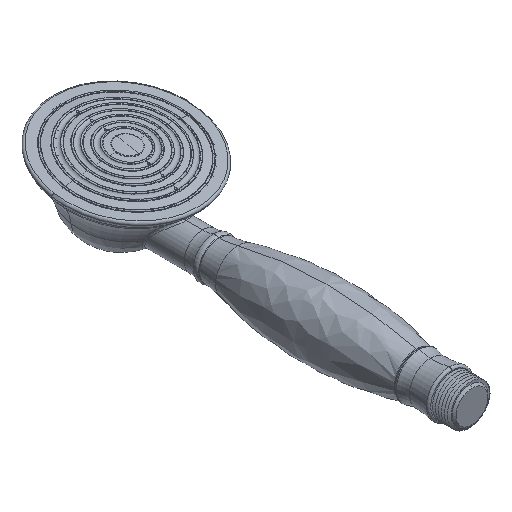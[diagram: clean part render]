
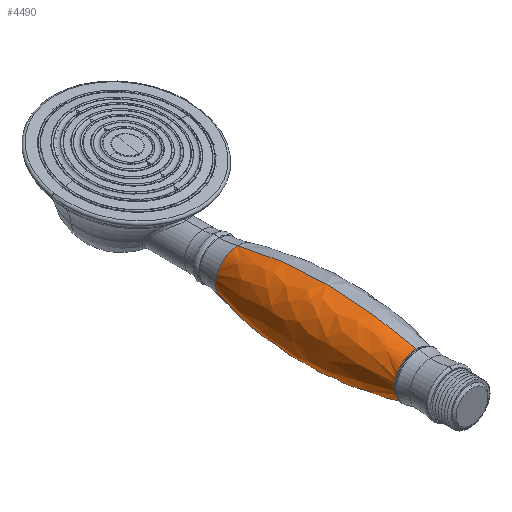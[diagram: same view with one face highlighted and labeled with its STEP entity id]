
A CAD part, isometric view. The second image highlights one B-rep face of the part: STEP entity #4490.
In plain terms, the highlighted free-form (B-spline) face has degree [3, 3] with [7, 4] control points.
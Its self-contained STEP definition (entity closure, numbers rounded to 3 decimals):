
#4356=CARTESIAN_POINT('',(0.,58.932,163.3));
#4357=DIRECTION('',(1.,0.,0.));
#4358=DIRECTION('',(0.,-0.251,-0.968));
#4359=AXIS2_PLACEMENT_3D('',#4356,#4357,#4358);
#4361=CARTESIAN_POINT('',(0.,58.932,-163.3));
#4362=DIRECTION('',(1.,0.,0.));
#4363=DIRECTION('',(0.,0.246,0.969));
#4364=AXIS2_PLACEMENT_3D('',#4361,#4362,#4363);
#4366=CARTESIAN_POINT('',(0.,13.8,0.));
#4367=DIRECTION('',(0.,-1.,0.));
#4368=DIRECTION('',(0.,0.,1.));
#4369=AXIS2_PLACEMENT_3D('',#4366,#4367,#4368);
#4376=CARTESIAN_POINT('',(0.,103.257,0.));
#4377=DIRECTION('',(0.,-1.,0.));
#4378=DIRECTION('',(0.,0.,1.));
#4379=AXIS2_PLACEMENT_3D('',#4376,#4377,#4378);
#4401=CARTESIAN_POINT('',(0.,13.8,10.95));
#4402=CARTESIAN_POINT('',(0.,13.8,-10.95));
#4403=VERTEX_POINT('',#4401);
#4404=VERTEX_POINT('',#4402);
#4405=CARTESIAN_POINT('',(0.,103.257,
-11.157));
#4406=VERTEX_POINT('',#4405);
#4407=CARTESIAN_POINT('',(0.,103.257,11.157));
#4408=VERTEX_POINT('',#4407);
#4453=CARTESIAN_POINT('',(0.672,105.007,10.682));
#4454=CARTESIAN_POINT('',(1.182,74.361,18.781));
#4455=CARTESIAN_POINT('',(1.177,42.66,18.708));
#4456=CARTESIAN_POINT('',(0.659,12.052,10.467));
#4457=CARTESIAN_POINT('',(-5.902,105.007,11.096));
#4458=CARTESIAN_POINT('',(-10.376,74.361,19.508));
#4459=CARTESIAN_POINT('',(-10.336,42.66,19.432));
#4460=CARTESIAN_POINT('',(-5.783,12.052,10.872));
#4461=CARTESIAN_POINT('',(-10.703,105.007,6.587));
#4462=CARTESIAN_POINT('',(-18.818,74.361,11.581));
#4463=CARTESIAN_POINT('',(-18.745,42.66,11.535));
#4464=CARTESIAN_POINT('',(-10.488,12.052,6.454));
#4465=CARTESIAN_POINT('',(-10.703,105.007,
0.));
#4466=CARTESIAN_POINT('',(-18.818,74.361,
0.));
#4467=CARTESIAN_POINT('',(-18.745,42.66,
0.));
#4468=CARTESIAN_POINT('',(-10.488,12.052,
0.));
#4469=CARTESIAN_POINT('',(-10.703,105.007,
-6.587));
#4470=CARTESIAN_POINT('',(-18.818,74.361,
-11.581));
#4471=CARTESIAN_POINT('',(-18.745,42.66,
-11.535));
#4472=CARTESIAN_POINT('',(-10.488,12.052,
-6.454));
#4473=CARTESIAN_POINT('',(-5.902,105.007,
-11.096));
#4474=CARTESIAN_POINT('',(-10.376,74.361,
-19.508));
#4475=CARTESIAN_POINT('',(-10.336,42.66,
-19.432));
#4476=CARTESIAN_POINT('',(-5.783,12.052,
-10.872));
#4477=CARTESIAN_POINT('',(0.672,105.007,
-10.682));
#4478=CARTESIAN_POINT('',(1.182,74.361,-18.781));
#4479=CARTESIAN_POINT('',(1.177,42.66,-18.708));
#4480=CARTESIAN_POINT('',(0.659,12.052,
-10.467));
#4481=(BOUNDED_SURFACE()B_SPLINE_SURFACE(3,3,((#4453,#4454,#4455,#4456),(#4457,
#4458,#4459,#4460),(#4461,#4462,#4463,#4464),(#4465,#4466,#4467,#4468),(#4469,
#4470,#4471,#4472),(#4473,#4474,#4475,#4476),(#4477,#4478,#4479,#4480)),
.UNSPECIFIED.,.F.,.F.,.F.)B_SPLINE_SURFACE_WITH_KNOTS((4,3,4),(4,4),(0.,1.,
2.),(0.,1.),.UNSPECIFIED.)GEOMETRIC_REPRESENTATION_ITEM()RATIONAL_B_SPLINE_SURFACE(((1.208,1.18,1.18,1.208),(
0.954,0.932,0.932,0.954),(
0.954,0.932,0.932,0.954),(
1.208,1.18,1.18,1.208),(
0.954,0.932,0.932,0.954),(
0.954,0.932,0.932,0.954),(
1.208,1.18,1.18,1.208)))REPRESENTATION_ITEM('')SURFACE());
#4482=ORIENTED_EDGE('',*,*,#4442,.T.);
#4484=ORIENTED_EDGE('',*,*,#4483,.F.);
#4485=ORIENTED_EDGE('',*,*,#4446,.T.);
#4487=ORIENTED_EDGE('',*,*,#4486,.T.);
#4488=EDGE_LOOP('',(#4482,#4484,#4485,#4487));
#4489=FACE_OUTER_BOUND('',#4488,.F.);
#4490=ADVANCED_FACE('',(#4489),#4481,.T.);
#4360=CIRCLE('',#4359,180.);
#4365=CIRCLE('',#4364,180.);
#4370=CIRCLE('',#4369,10.95);
#4380=CIRCLE('',#4379,11.157);
#4442=EDGE_CURVE('',#4404,#4406,#4360,.T.);
#4446=EDGE_CURVE('',#4408,#4403,#4365,.T.);
#4483=EDGE_CURVE('',#4408,#4406,#4380,.T.);
#4486=EDGE_CURVE('',#4403,#4404,#4370,.T.);
